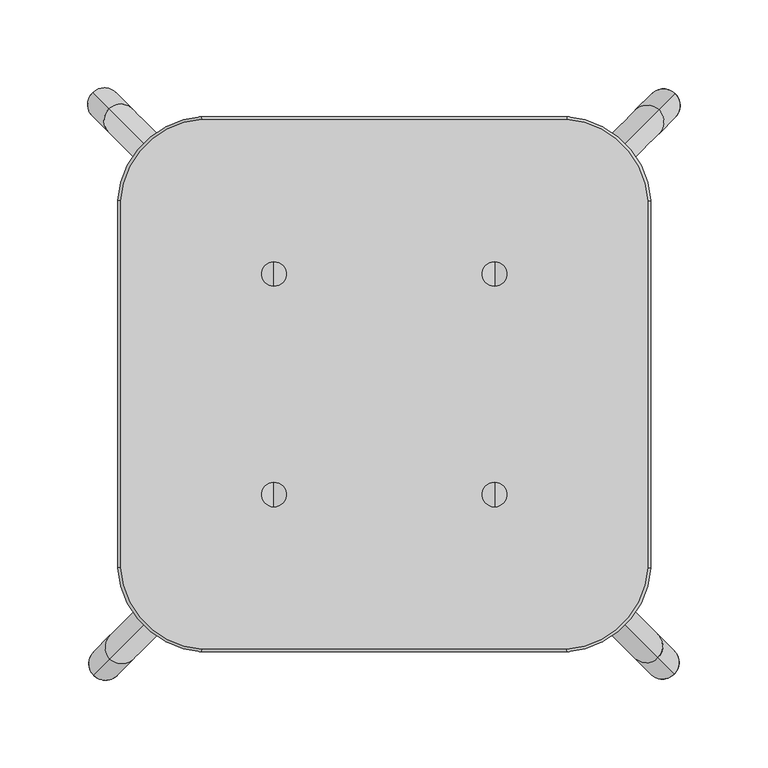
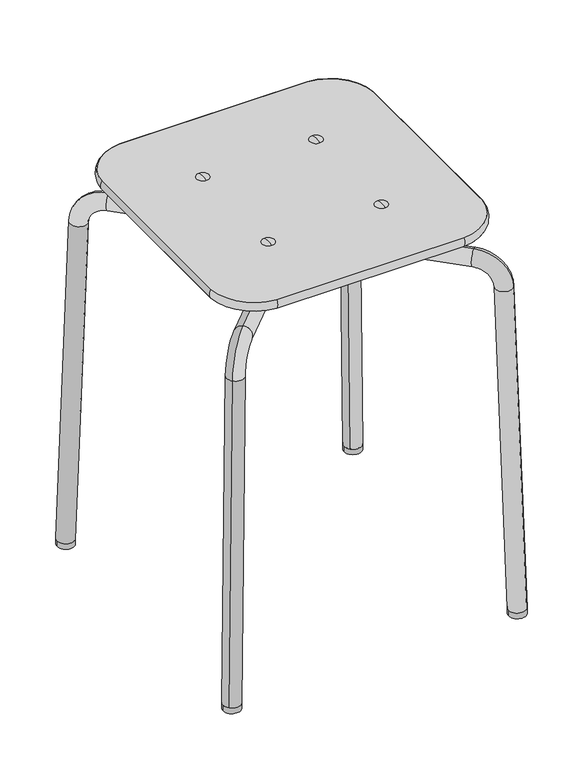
"""IFC4 building model written with IfcOpenShell, lengths in millimetres: furniture geometry, Grip NxT Stool : 45 Unupholstered."""

from ifc_helpers import new_model, si_unit, point, frame, frame_2d, origin, origin_with_axes, place, context, project, spatial, polyline, circle_curve, ellipse_curve, trimmed, segment, composite_curve, outline, extrude, source, transform, mapped, element, save
from ifc_brep_helpers import plane_surface, cylinder_surface, revolved_surface, advanced_brep


def furniture_6e050dcf(model_context):
    return source(origin(), model_context, "Body", "SolidModel", [
        advanced_brep(
        [(165.2549262, -165.2549262, 6.7653221), (151.8280816, -151.8280816, 6.1022316), (155.9976183, -155.9976183, 381.66572), (142.5707737, -142.5707737, 381.0026295), (128.0839151, -128.0839151, 419.7871899), (128.0839151, -128.0839151, 400.7871899), (0.1314281, -0.1314281, 419.7871899), (0.1314281, -0.1314281, 400.7871899), (-129.1039076, 129.1039076, 419.7871899), (-129.1039076, 129.1039076, 400.7871899), (-157.0176108, 157.0176108, 381.66572), (-143.5907662, 143.5907662, 381.0026295), (-166.2737555, 166.2737555, 6.812426), (-152.846911, 152.846911, 6.1493355), (165.895769, 165.6329127, 6.7653221), (152.4689244, 152.2060681, 6.1022316), (156.6384611, 156.3756048, 381.66572), (143.2116165, 142.9487603, 381.0026295), (128.7247579, 128.4619016, 419.7871899), (128.7247579, 128.4619016, 400.7871899), (-128.4630647, -128.725921, 419.7871899), (-128.4630647, -128.725921, 400.7871899), (-156.376768, -156.6396242, 381.66572), (-142.9499234, -143.2127797, 381.0026295), (-165.6329127, -165.895769, 6.812426), (-152.2060681, -152.4689244, 6.1493355)],
        [
            (0, 1, circle_curve(frame((158.5415039, -158.5415039, 6.4337769), z_axis=(0.024677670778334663, -0.02467767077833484, -0.9993908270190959), x_axis=(-0.7066760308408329, 0.7066760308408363, -0.034899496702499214)), 9.5)),
            (1, 0, circle_curve(frame((158.5415039, -158.5415039, 6.4337769), z_axis=(0.024677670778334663, -0.02467767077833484, -0.9993908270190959), x_axis=(-0.7066760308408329, 0.7066760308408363, -0.034899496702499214)), 9.5)),
            (0, 2),
            (2, 3, circle_curve(frame((149.284196, -149.284196, 381.3341748), z_axis=(0.024677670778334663, -0.02467767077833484, -0.9993908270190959), x_axis=(-0.7066760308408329, 0.7066760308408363, -0.034899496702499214)), 9.5)),
            (3, 1),
            (3, 2, circle_curve(frame((149.284196, -149.284196, 381.3341748), z_axis=(0.024677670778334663, -0.02467767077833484, -0.9993908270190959), x_axis=(-0.7066760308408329, 0.7066760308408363, -0.034899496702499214)), 9.5)),
            (2, 4, circle_curve(frame((128.0839151, -128.0839151, 380.2871899), z_axis=(-0.7071067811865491, -0.7071067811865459, 0.0), x_axis=(0.7066760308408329, -0.7066760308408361, 0.03489949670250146)), 39.5)),
            (4, 5, circle_curve(frame((128.0839151, -128.0839151, 410.2871899), z_axis=(0.7071067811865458, -0.7071067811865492, 0.0), x_axis=(0.0, 0.0, -1.0)), 9.5)),
            (5, 3, circle_curve(frame((128.0839151, -128.0839151, 380.2871899), z_axis=(0.7071067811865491, 0.7071067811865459, 0.0), x_axis=(0.7066760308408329, -0.7066760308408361, 0.03489949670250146)), 20.5)),
            (5, 4, circle_curve(frame((128.0839151, -128.0839151, 410.2871899), z_axis=(0.7071067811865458, -0.7071067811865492, 0.0), x_axis=(0.0, 0.0, -1.0)), 9.5)),
            (4, 6),
            (6, 7, ellipse_curve(frame((0.1314281, -0.1314281, 410.2871899), z_axis=(1.0, 0.0, 0.0), x_axis=(0.0, -1.0, 0.0)), 13.4350288, 9.5)),
            (7, 5),
            (8, 9, circle_curve(frame((-129.1039076, 129.1039076, 410.2871899), z_axis=(0.7071067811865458, -0.7071067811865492, 0.0), x_axis=(0.0, 0.0, -1.0)), 9.5)),
            (9, 7),
            (7, 6, ellipse_curve(frame((0.1314281, -0.1314281, 410.2871899), z_axis=(0.0, 1.0, 0.0), x_axis=(1.0, 0.0, 0.0)), 13.4350288, 9.5)),
            (6, 8),
            (7, 6, ellipse_curve(frame((0.1314281, -0.1314281, 410.2871899), z_axis=(0.0, -1.0, 0.0), x_axis=(1.0, 0.0, 0.0)), 13.4350288, 9.5)),
            (9, 8, circle_curve(frame((-129.1039076, 129.1039076, 410.2871899), z_axis=(0.7071067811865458, -0.7071067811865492, 0.0), x_axis=(0.0, 0.0, -1.0)), 9.5)),
            (6, 7, ellipse_curve(frame((0.1314281, -0.1314281, 410.2871899), z_axis=(-1.0, 0.0, 0.0), x_axis=(0.0, -1.0, 0.0)), 13.4350288, 9.5)),
            (8, 10, circle_curve(frame((-129.1039076, 129.1039076, 380.2871899), z_axis=(-0.7071067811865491, -0.7071067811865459, 0.0), x_axis=(0.0, 0.0, 1.0)), 39.5)),
            (10, 11, circle_curve(frame((-150.3041885, 150.3041885, 381.3341748), z_axis=(0.024677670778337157, -0.02467767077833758, 0.9993908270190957), x_axis=(0.7066760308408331, -0.7066760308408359, -0.03489949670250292)), 9.5)),
            (11, 9, circle_curve(frame((-129.1039076, 129.1039076, 380.2871899), z_axis=(0.7071067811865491, 0.7071067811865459, 0.0), x_axis=(0.0, 0.0, 1.0)), 20.5)),
            (11, 10, circle_curve(frame((-150.3041885, 150.3041885, 381.3341748), z_axis=(0.02467767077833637, -0.024677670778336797, 0.9993908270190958), x_axis=(0.7066760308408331, -0.7066760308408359, -0.03489949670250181)), 9.5)),
            (12, 13, circle_curve(frame((-159.5603333, 159.5603333, 6.4808807), z_axis=(-0.024677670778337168, 0.02467767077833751, -0.9993908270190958), x_axis=(0.7066760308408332, -0.7066760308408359, -0.03489949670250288)), 9.5)),
            (13, 12, circle_curve(frame((-159.5603333, 159.5603333, 6.4808807), z_axis=(-0.024677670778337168, 0.02467767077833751, -0.9993908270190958), x_axis=(0.7066760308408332, -0.7066760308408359, -0.03489949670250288)), 9.5)),
            (10, 12),
            (13, 11),
            (14, 15, circle_curve(frame((159.1823467, 158.9194904, 6.4337769), z_axis=(0.024677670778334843, 0.024677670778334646, -0.9993908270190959), x_axis=(-0.706676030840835, -0.7066760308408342, -0.03489949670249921)), 9.5)),
            (15, 14, circle_curve(frame((159.1823467, 158.9194904, 6.4337769), z_axis=(0.024677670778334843, 0.024677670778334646, -0.9993908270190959), x_axis=(-0.706676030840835, -0.7066760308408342, -0.03489949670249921)), 9.5)),
            (14, 16),
            (16, 17, circle_curve(frame((149.9250388, 149.6621825, 381.3341748), z_axis=(0.024677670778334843, 0.024677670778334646, -0.9993908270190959), x_axis=(-0.706676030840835, -0.7066760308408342, -0.03489949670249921)), 9.5)),
            (17, 15),
            (17, 16, circle_curve(frame((149.9250388, 149.6621825, 381.3341748), z_axis=(0.024677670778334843, 0.024677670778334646, -0.9993908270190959), x_axis=(-0.706676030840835, -0.7066760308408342, -0.03489949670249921)), 9.5)),
            (16, 18, circle_curve(frame((128.7247579, 128.4619016, 380.2871899), z_axis=(0.707106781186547, -0.707106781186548, 0.0), x_axis=(0.706676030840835, 0.706676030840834, 0.03489949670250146)), 39.5)),
            (18, 19, circle_curve(frame((128.7247579, 128.4619016, 410.2871899), z_axis=(0.7071067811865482, 0.707106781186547, 0.0), x_axis=(0.0, 0.0, -1.0)), 9.5)),
            (19, 17, circle_curve(frame((128.7247579, 128.4619016, 380.2871899), z_axis=(-0.707106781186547, 0.707106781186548, 0.0), x_axis=(0.706676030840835, 0.706676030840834, 0.03489949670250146)), 20.5)),
            (19, 18, circle_curve(frame((128.7247579, 128.4619016, 410.2871899), z_axis=(0.7071067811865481, 0.7071067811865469, 0.0), x_axis=(0.0, 0.0, -1.0)), 9.5)),
            (18, 6),
            (7, 19),
            (20, 21, circle_curve(frame((-128.4630647, -128.725921, 410.2871899), z_axis=(0.7071067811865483, 0.7071067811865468, 0.0), x_axis=(0.0, 0.0, -1.0)), 9.5)),
            (21, 7),
            (6, 20),
            (21, 20, circle_curve(frame((-128.4630647, -128.725921, 410.2871899), z_axis=(0.7071067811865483, 0.7071067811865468, 0.0), x_axis=(0.0, 0.0, -1.0)), 9.5)),
            (20, 22, circle_curve(frame((-128.4630647, -128.725921, 380.2871899), z_axis=(0.707106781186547, -0.707106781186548, 0.0), x_axis=(0.0, 0.0, 1.0)), 39.5)),
            (22, 23, circle_curve(frame((-149.6633457, -149.9262019, 381.3341748), z_axis=(0.02467767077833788, 0.02467767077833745, 0.9993908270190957), x_axis=(0.7066760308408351, 0.7066760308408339, -0.03489949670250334)), 9.5)),
            (23, 21, circle_curve(frame((-128.4630647, -128.725921, 380.2871899), z_axis=(-0.707106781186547, 0.707106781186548, 0.0), x_axis=(0.0, 0.0, 1.0)), 20.5)),
            (23, 22, circle_curve(frame((-149.6633457, -149.9262019, 381.3341748), z_axis=(0.024677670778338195, 0.024677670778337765, 0.9993908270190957), x_axis=(0.7066760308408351, 0.7066760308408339, -0.034899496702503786)), 9.5)),
            (24, 25, circle_curve(frame((-158.9194904, -159.1823467, 6.4808807), z_axis=(-0.02467767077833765, -0.024677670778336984, -0.9993908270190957), x_axis=(0.7066760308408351, 0.7066760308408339, -0.03489949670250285)), 9.5)),
            (25, 24, circle_curve(frame((-158.9194904, -159.1823467, 6.4808807), z_axis=(-0.02467767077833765, -0.024677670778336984, -0.9993908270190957), x_axis=(0.7066760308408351, 0.7066760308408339, -0.03489949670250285)), 9.5)),
            (22, 24),
            (25, 23),
        ],
        [
            plane_surface(frame((158.5415039, -158.5415039, 6.4337769), z_axis=(0.024677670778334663, -0.02467767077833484, -0.9993908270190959), x_axis=(-0.707106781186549, -0.7071067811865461, 0.0))),
            cylinder_surface(frame((158.5415039, -158.5415039, 6.4337769), z_axis=(0.024677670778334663, -0.02467767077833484, -0.9993908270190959), x_axis=(-0.7066760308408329, 0.7066760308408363, -0.034899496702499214)), 9.5),
            revolved_surface(trimmed(ellipse_curve(frame((149.284196, -149.284196, 381.3341748), z_axis=(0.024677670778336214, -0.024677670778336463, -0.9993908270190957), x_axis=(-0.7066760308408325, 0.7066760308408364, -0.03489949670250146)), 9.5, 9.5), [point((155.9976183, -155.9976183, 381.66572))], [point((142.5707737, -142.5707737, 381.0026295))], True, "CARTESIAN"), (128.0839151, -128.0839151, 380.2871899), (-0.7071067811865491, -0.7071067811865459, 0.0)),
            revolved_surface(trimmed(ellipse_curve(frame((149.284196, -149.284196, 381.3341748), z_axis=(0.024677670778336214, -0.024677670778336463, -0.9993908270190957), x_axis=(-0.7066760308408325, 0.7066760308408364, -0.03489949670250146)), 9.5, 9.5), [point((142.5707737, -142.5707737, 381.0026295))], [point((155.9976183, -155.9976183, 381.66572))], True, "CARTESIAN"), (128.0839151, -128.0839151, 380.2871899), (-0.7071067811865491, -0.7071067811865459, 0.0)),
            cylinder_surface(frame((128.0839151, -128.0839151, 410.2871899), z_axis=(0.7071067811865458, -0.7071067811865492, 0.0), x_axis=(0.0, 0.0, -1.0)), 9.5),
            revolved_surface(trimmed(ellipse_curve(frame((-129.1039076, 129.1039076, 410.2871899), z_axis=(0.7071067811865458, -0.7071067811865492, 0.0), x_axis=(0.0, 0.0, -1.0)), 9.5, 9.5), [point((-129.1039076, 129.1039076, 419.7871899))], [point((-129.1039076, 129.1039076, 400.7871899))], True, "CARTESIAN"), (-129.1039076, 129.1039076, 380.2871899), (-0.7071067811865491, -0.7071067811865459, 0.0)),
            revolved_surface(trimmed(ellipse_curve(frame((-129.1039076, 129.1039076, 410.2871899), z_axis=(0.7071067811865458, -0.7071067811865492, 0.0), x_axis=(0.0, 0.0, -1.0)), 9.5, 9.5), [point((-129.1039076, 129.1039076, 400.7871899))], [point((-129.1039076, 129.1039076, 419.7871899))], True, "CARTESIAN"), (-129.1039076, 129.1039076, 380.2871899), (-0.7071067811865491, -0.7071067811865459, 0.0)),
            plane_surface(frame((-159.5603333, 159.5603333, 6.4808807), z_axis=(-0.024677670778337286, 0.0246776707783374, -0.9993908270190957), x_axis=(-0.7071067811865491, -0.7071067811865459, 0.0))),
            cylinder_surface(frame((-150.3041885, 150.3041885, 381.3341748), z_axis=(0.024677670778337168, -0.02467767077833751, 0.9993908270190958), x_axis=(0.7066760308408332, -0.7066760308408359, -0.03489949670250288)), 9.5),
            plane_surface(frame((159.1823467, 158.9194904, 6.4337769), z_axis=(0.024677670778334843, 0.024677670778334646, -0.9993908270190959), x_axis=(0.707106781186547, -0.7071067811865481, 0.0))),
            cylinder_surface(frame((159.1823467, 158.9194904, 6.4337769), z_axis=(0.024677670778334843, 0.024677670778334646, -0.9993908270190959), x_axis=(-0.706676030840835, -0.7066760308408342, -0.03489949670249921)), 9.5),
            revolved_surface(trimmed(ellipse_curve(frame((149.9250388, 149.6621825, 381.3341748), z_axis=(0.024677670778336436, 0.024677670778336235, -0.9993908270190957), x_axis=(-0.7066760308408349, -0.7066760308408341, -0.034899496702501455)), 9.5, 9.5), [point((156.6384611, 156.3756048, 381.66572))], [point((143.2116165, 142.9487603, 381.0026295))], True, "CARTESIAN"), (128.7247579, 128.4619016, 380.2871899), (0.707106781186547, -0.707106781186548, 0.0)),
            revolved_surface(trimmed(ellipse_curve(frame((149.9250388, 149.6621825, 381.3341748), z_axis=(0.024677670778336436, 0.024677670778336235, -0.9993908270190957), x_axis=(-0.7066760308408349, -0.7066760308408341, -0.034899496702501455)), 9.5, 9.5), [point((143.2116165, 142.9487603, 381.0026295))], [point((156.6384611, 156.3756048, 381.66572))], True, "CARTESIAN"), (128.7247579, 128.4619016, 380.2871899), (0.707106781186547, -0.707106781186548, 0.0)),
            cylinder_surface(frame((128.7247579, 128.4619016, 410.2871899), z_axis=(0.7071067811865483, 0.7071067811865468, 0.0), x_axis=(0.0, 0.0, -1.0)), 9.5),
            revolved_surface(trimmed(ellipse_curve(frame((-128.4630647, -128.725921, 410.2871899), z_axis=(0.7071067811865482, 0.7071067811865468, 0.0), x_axis=(0.0, 0.0, -1.0)), 9.5, 9.5), [point((-128.4630647, -128.725921, 419.7871899))], [point((-128.4630647, -128.725921, 400.7871899))], True, "CARTESIAN"), (-128.4630647, -128.725921, 380.2871899), (0.707106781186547, -0.707106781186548, 0.0)),
            revolved_surface(trimmed(ellipse_curve(frame((-128.4630647, -128.725921, 410.2871899), z_axis=(0.7071067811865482, 0.7071067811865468, 0.0), x_axis=(0.0, 0.0, -1.0)), 9.5, 9.5), [point((-128.4630647, -128.725921, 400.7871899))], [point((-128.4630647, -128.725921, 419.7871899))], True, "CARTESIAN"), (-128.4630647, -128.725921, 380.2871899), (0.707106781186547, -0.707106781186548, 0.0)),
            plane_surface(frame((-158.9194904, -159.1823467, 6.4808807), z_axis=(-0.024677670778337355, -0.024677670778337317, -0.9993908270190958), x_axis=(0.707106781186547, -0.7071067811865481, 0.0))),
            cylinder_surface(frame((-149.6633457, -149.9262019, 381.3341748), z_axis=(0.024677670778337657, 0.02467767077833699, 0.9993908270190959), x_axis=(0.7066760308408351, 0.7066760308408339, -0.03489949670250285)), 9.5),
        ],
        [
            (0, [[1, 2]]),
            (1, [[-1, 3, 4, 5]]),
            (1, [[-2, -5, 6, -3]]),
            (2, [[-4, 7, 8, 9]]),
            (3, [[-6, -9, 10, -7]]),
            (4, [[-8, 11, 12, 13]]),
            (4, [[14, 15, 16, 17]]),
            (4, [[-10, -13, 18, -11]]),
            (4, [[19, -17, 20, -15]]),
            (5, [[-14, 21, 22, 23]]),
            (6, [[-19, -23, 24, -21]]),
            (7, [[25, 26]]),
            (8, [[-22, 27, -26, 28]]),
            (8, [[-24, -28, -25, -27]]),
            (9, [[29, 30]]),
            (10, [[-29, 31, 32, 33]]),
            (10, [[-30, -33, 34, -31]]),
            (11, [[-32, 35, 36, 37]]),
            (12, [[-34, -37, 38, -35]]),
            (13, [[-36, 39, -18, 40]]),
            (13, [[41, 42, -12, 43]]),
            (13, [[-38, -40, -20, -39]]),
            (13, [[44, -43, -16, -42]]),
            (14, [[-41, 45, 46, 47]]),
            (15, [[-44, -47, 48, -45]]),
            (16, [[49, 50]]),
            (17, [[-46, 51, -50, 52]]),
            (17, [[-48, -52, -49, -51]]),
        ],
    ),
        extrude(outline(composite_curve([segment(trimmed(circle_curve(frame_2d((-62.8430475, -62.9984816)), 9.0), [point((-71.8430475, -62.9984816))], [point((-53.8430475, -62.9984816))], False, "CARTESIAN"), True, "CONTINUOUS"), segment(trimmed(circle_curve(frame_2d((-62.8430475, -62.9984816)), 9.0), [point((-53.8430475, -62.9984816))], [point((-71.8430475, -62.9984816))], False, "CARTESIAN"), True, "CONTINUOUS")], self_intersect=False)), frame((0.0, 0.0, 388.5318909), z_axis=(0.0, 0.0, 1.0), x_axis=(1.0, 0.0, 0.0)), (0.0, 0.0, 1.0), 56.7956238),
        extrude(outline(composite_curve([segment(trimmed(circle_curve(frame_2d((-62.9013824, 62.8818117)), 9.0), [point((-71.9013824, 62.8818117))], [point((-53.9013824, 62.8818117))], False, "CARTESIAN"), True, "CONTINUOUS"), segment(trimmed(circle_curve(frame_2d((-62.9013824, 62.8818117)), 9.0), [point((-53.9013824, 62.8818117))], [point((-71.9013824, 62.8818117))], False, "CARTESIAN"), True, "CONTINUOUS")], self_intersect=False)), frame((0.0, 0.0, 388.5318909), z_axis=(0.0, 0.0, 1.0), x_axis=(1.0, 0.0, 0.0)), (0.0, 0.0, 1.0), 56.7956238),
        extrude(outline(composite_curve([segment(trimmed(circle_curve(frame_2d((63.0190462, 62.6464842)), 9.0), [point((72.0190462, 62.6464842))], [point((54.0190462, 62.6464842))], False, "CARTESIAN"), True, "CONTINUOUS"), segment(trimmed(circle_curve(frame_2d((63.0190462, 62.6464842)), 9.0), [point((54.0190462, 62.6464842))], [point((72.0190462, 62.6464842))], False, "CARTESIAN"), True, "CONTINUOUS")], self_intersect=False)), frame((0.0, 0.0, 388.5318909), z_axis=(0.0, 0.0, 1.0), x_axis=(1.0, 0.0, 0.0)), (0.0, 0.0, 1.0), 56.7956238),
        extrude(outline(composite_curve([segment(trimmed(circle_curve(frame_2d((62.8430475, -62.9984816)), 9.0), [point((71.8430475, -62.9984816))], [point((53.8430475, -62.9984816))], False, "CARTESIAN"), True, "CONTINUOUS"), segment(trimmed(circle_curve(frame_2d((62.8430475, -62.9984816)), 9.0), [point((53.8430475, -62.9984816))], [point((71.8430475, -62.9984816))], False, "CARTESIAN"), True, "CONTINUOUS")], self_intersect=False)), frame((0.0, 0.0, 388.5318909), z_axis=(0.0, 0.0, 1.0), x_axis=(1.0, 0.0, 0.0)), (0.0, 0.0, 1.0), 56.7956238),
        extrude(outline(composite_curve([segment(trimmed(circle_curve(frame_2d((-158.9072278, -159.1772871)), 9.5), [point((-168.4072278, -159.1772871))], [point((-149.4072278, -159.1772871))], False, "CARTESIAN"), True, "CONTINUOUS"), segment(trimmed(circle_curve(frame_2d((-158.9072278, -159.1772871)), 9.5), [point((-149.4072278, -159.1772871))], [point((-168.4072278, -159.1772871))], False, "CARTESIAN"), True, "CONTINUOUS")], self_intersect=False)), origin_with_axes(), (0.0, 0.0, 1.0), 7.0),
        extrude(outline(composite_curve([segment(trimmed(circle_curve(frame_2d((-159.4918114, 159.500871)), 9.5), [point((-168.9918114, 159.500871))], [point((-149.9918114, 159.500871))], False, "CARTESIAN"), True, "CONTINUOUS"), segment(trimmed(circle_curve(frame_2d((-159.4918114, 159.500871)), 9.5), [point((-149.9918114, 159.500871))], [point((-168.9918114, 159.500871))], False, "CARTESIAN"), True, "CONTINUOUS")], self_intersect=False)), origin_with_axes(), (0.0, 0.0, 1.0), 7.0),
        extrude(outline(composite_curve([segment(trimmed(circle_curve(frame_2d((159.1861771, 158.971276)), 9.5325021), [point((149.653675, 158.971276))], [point((168.7186793, 158.971276))], False, "CARTESIAN"), True, "CONTINUOUS"), segment(trimmed(circle_curve(frame_2d((159.1861771, 158.971276)), 9.5325021), [point((168.7186793, 158.971276))], [point((149.653675, 158.971276))], False, "CARTESIAN"), True, "CONTINUOUS")], self_intersect=False)), origin_with_axes(), (0.0, 0.0, 1.0), 7.0),
        extrude(outline(composite_curve([segment(trimmed(circle_curve(frame_2d((158.5471745, -158.5595901)), 9.5), [point((149.0471745, -158.5595901))], [point((168.0471745, -158.5595901))], False, "CARTESIAN"), True, "CONTINUOUS"), segment(trimmed(circle_curve(frame_2d((158.5471745, -158.5595901)), 9.5), [point((168.0471745, -158.5595901))], [point((149.0471745, -158.5595901))], False, "CARTESIAN"), True, "CONTINUOUS")], self_intersect=False)), origin_with_axes(), (0.0, 0.0, 1.0), 7.0),
        advanced_brep(
        [(62.864624, 55.9496384, 455.3895874), (62.864624, 69.8431778, 455.3895874), (62.864624, 62.8964081, 455.3895874), (62.864624, 62.8964081, 456.5699158)],
        [
            (0, 1, circle_curve(frame((62.864624, 62.8964081, 455.3895874), z_axis=(0.0, 0.0, -1.0), x_axis=(0.0, 1.0, 0.0)), 6.9467697)),
            (1, 2),
            (2, 0),
            (1, 0, circle_curve(frame((62.864624, 62.8964081, 455.3895874), z_axis=(0.0, 0.0, -1.0), x_axis=(0.0, 1.0, 0.0)), 6.9467697)),
            (3, 1, circle_curve(frame((62.864624, 63.1234591, 436.8735995), z_axis=(-1.0, 0.0, 0.0), x_axis=(0.0, 1.0, 0.0)), 19.6976249)),
            (0, 3, circle_curve(frame((62.864624, 62.669357, 436.8735995), z_axis=(-1.0, 0.0, 0.0), x_axis=(0.0, -1.0, 0.0)), 19.6976249)),
        ],
        [
            plane_surface(frame((62.864624, 62.8964081, 455.3895874), z_axis=(0.0, 0.0, -1.0), x_axis=(0.0, 1.0, 0.0))),
            revolved_surface(trimmed(ellipse_curve(frame((62.864624, 63.1234591, 436.8735995), z_axis=(1.0, 0.0, 0.0), x_axis=(0.0, 1.0, 0.0)), 19.6976249, 19.6976249), [point((62.864624, 69.8431778, 455.3895874))], [point((62.864624, 62.8964081, 456.5699158))], True, "CARTESIAN"), (62.864624, 62.8964081, 456.2266692), (0.0, 0.0, 1.0)),
        ],
        [
            (0, [[1, 2, 3]]),
            (0, [[4, -3, -2]]),
            (1, [[5, -1, 6]]),
            (1, [[-6, -4, -5]]),
        ],
    ),
        advanced_brep(
        [(62.864624, -62.8964081, 455.3895874), (62.864624, -69.8431778, 455.3895874), (62.864624, -55.9496384, 455.3895874), (62.864624, -62.8964081, 456.5699158)],
        [
            (0, 1),
            (1, 2, circle_curve(frame((62.864624, -62.8964081, 455.3895874), z_axis=(0.0, 0.0, -1.0), x_axis=(0.0, -1.0, 0.0)), 6.9467697)),
            (2, 0),
            (2, 1, circle_curve(frame((62.864624, -62.8964081, 455.3895874), z_axis=(0.0, 0.0, -1.0), x_axis=(0.0, -1.0, 0.0)), 6.9467697)),
            (1, 3, circle_curve(frame((62.864624, -63.1234591, 436.8735995), z_axis=(-1.0, 0.0, 0.0), x_axis=(0.0, -1.0, 0.0)), 19.6976249)),
            (3, 2, circle_curve(frame((62.864624, -62.669357, 436.8735995), z_axis=(-1.0, 0.0, 0.0), x_axis=(0.0, 1.0, 0.0)), 19.6976249)),
        ],
        [
            plane_surface(frame((62.864624, -62.8964081, 455.3895874), z_axis=(0.0, 0.0, -1.0), x_axis=(0.0, -1.0, 0.0))),
            revolved_surface(trimmed(ellipse_curve(frame((62.864624, -63.1234591, 436.8735995), z_axis=(1.0, 0.0, 0.0), x_axis=(0.0, -1.0, 0.0)), 19.6976249, 19.6976249), [point((62.864624, -62.8964081, 456.5699158))], [point((62.864624, -69.8431778, 455.3895874))], True, "CARTESIAN"), (62.864624, -62.8964081, 456.2266692), (0.0, 0.0, -1.0)),
        ],
        [
            (0, [[1, 2, 3]]),
            (0, [[-3, 4, -1]]),
            (1, [[-2, 5, 6]]),
            (1, [[-4, -6, -5]]),
        ],
    ),
        advanced_brep(
        [(-62.864624, 62.8964081, 455.3895874), (-62.864624, 69.8431778, 455.3895874), (-62.864624, 55.9496384, 455.3895874), (-62.864624, 62.8964081, 456.5699158)],
        [
            (0, 1),
            (1, 2, circle_curve(frame((-62.864624, 62.8964081, 455.3895874), z_axis=(0.0, 0.0, -1.0), x_axis=(0.0, 1.0, 0.0)), 6.9467697)),
            (2, 0),
            (2, 1, circle_curve(frame((-62.864624, 62.8964081, 455.3895874), z_axis=(0.0, 0.0, -1.0), x_axis=(0.0, 1.0, 0.0)), 6.9467697)),
            (1, 3, circle_curve(frame((-62.864624, 63.1234591, 436.8735995), z_axis=(1.0, 0.0, 0.0), x_axis=(0.0, 1.0, 0.0)), 19.6976249)),
            (3, 2, circle_curve(frame((-62.864624, 62.669357, 436.8735995), z_axis=(1.0, 0.0, 0.0), x_axis=(0.0, -1.0, 0.0)), 19.6976249)),
        ],
        [
            plane_surface(frame((-62.864624, 62.8964081, 455.3895874), z_axis=(0.0, 0.0, -1.0), x_axis=(0.0, 1.0, 0.0))),
            revolved_surface(trimmed(ellipse_curve(frame((-62.864624, 63.1234591, 436.8735995), z_axis=(-1.0, 0.0, 0.0), x_axis=(0.0, 1.0, 0.0)), 19.6976249, 19.6976249), [point((-62.864624, 62.8964081, 456.5699158))], [point((-62.864624, 69.8431778, 455.3895874))], True, "CARTESIAN"), (-62.864624, 62.8964081, 456.2266692), (0.0, 0.0, -1.0)),
        ],
        [
            (0, [[1, 2, 3]]),
            (0, [[-3, 4, -1]]),
            (1, [[-2, 5, 6]]),
            (1, [[-4, -6, -5]]),
        ],
    ),
        advanced_brep(
        [(-62.864624, -55.9496384, 455.3895874), (-62.864624, -69.8431778, 455.3895874), (-62.864624, -62.8964081, 455.3895874), (-62.864624, -62.8964081, 456.5699158)],
        [
            (0, 1, circle_curve(frame((-62.864624, -62.8964081, 455.3895874), z_axis=(0.0, 0.0, -1.0), x_axis=(0.0, -1.0, 0.0)), 6.9467697)),
            (1, 2),
            (2, 0),
            (1, 0, circle_curve(frame((-62.864624, -62.8964081, 455.3895874), z_axis=(0.0, 0.0, -1.0), x_axis=(0.0, -1.0, 0.0)), 6.9467697)),
            (3, 1, circle_curve(frame((-62.864624, -63.1234591, 436.8735995), z_axis=(1.0, 0.0, 0.0), x_axis=(0.0, -1.0, 0.0)), 19.6976249)),
            (0, 3, circle_curve(frame((-62.864624, -62.669357, 436.8735995), z_axis=(1.0, 0.0, 0.0), x_axis=(0.0, 1.0, 0.0)), 19.6976249)),
        ],
        [
            plane_surface(frame((-62.864624, -62.8964081, 455.3895874), z_axis=(0.0, 0.0, -1.0), x_axis=(0.0, -1.0, 0.0))),
            revolved_surface(trimmed(ellipse_curve(frame((-62.864624, -63.1234591, 436.8735995), z_axis=(-1.0, 0.0, 0.0), x_axis=(0.0, -1.0, 0.0)), 19.6976249, 19.6976249), [point((-62.864624, -69.8431778, 455.3895874))], [point((-62.864624, -62.8964081, 456.5699158))], True, "CARTESIAN"), (-62.864624, -62.8964081, 456.2266692), (0.0, 0.0, 1.0)),
        ],
        [
            (0, [[1, 2, 3]]),
            (0, [[4, -3, -2]]),
            (1, [[5, -1, 6]]),
            (1, [[-6, -4, -5]]),
        ],
    ),
        advanced_brep(
        [(-150.5346627, -104.6444052, 455.4041136), (-104.127396, -151.0356405, 455.4041136), (-104.127396, -151.0356405, 445.4041138), (-150.5346627, -104.6444052, 445.4041138), (-150.5346627, 104.6444052, 455.4041136), (-150.5346627, 104.6444052, 445.4041138), (-104.127396, 151.0356405, 455.4041136), (-104.127396, 151.0356405, 445.4041138), (104.127396, 151.0356405, 455.4041136), (104.127396, 151.0356405, 445.4041138), (150.5346627, 104.6444052, 455.4041136), (150.5346627, 104.6444052, 445.4041138), (150.5346627, -104.6444052, 455.4041136), (150.5346627, -104.6444052, 445.4041138), (104.127396, -151.0356405, 455.4041136), (104.127396, -151.0356405, 445.4041138)],
        [
            (0, 1, circle_curve(frame((-100.6564828, -101.1562584, 455.4041136), z_axis=(0.0, 0.0, 1.0), x_axis=(-0.06941826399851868, -0.9975876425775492, 0.0)), 50.0)),
            (1, 2),
            (2, 3, circle_curve(frame((-100.6564828, -101.1562584, 445.4041138), z_axis=(0.0, 0.0, -1.0), x_axis=(-0.06941826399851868, -0.9975876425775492, 0.0)), 50.0)),
            (3, 0),
            (4, 0, circle_curve(frame((1345.8107347, 0.0, 455.4041136), z_axis=(0.0, 0.0, 1.0), x_axis=(-0.9975635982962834, -0.06976293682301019, 0.0)), 1500.0)),
            (3, 5, circle_curve(frame((1345.8107347, 0.0, 445.4041138), z_axis=(0.0, 0.0, -1.0), x_axis=(-0.9975635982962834, -0.06976293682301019, 0.0)), 1500.0)),
            (5, 4),
            (6, 4, circle_curve(frame((-100.6564828, 101.1562584, 455.4041136), z_axis=(0.0, 0.0, 1.0), x_axis=(-0.9975635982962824, 0.0697629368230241, 0.0)), 50.0)),
            (5, 7, circle_curve(frame((-100.6564828, 101.1562584, 445.4041138), z_axis=(0.0, 0.0, -1.0), x_axis=(-0.9975635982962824, 0.0697629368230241, 0.0)), 50.0)),
            (7, 6),
            (8, 6, circle_curve(frame((0.0, -1345.3458233, 455.4041136), z_axis=(0.0, 0.0, 1.0), x_axis=(-0.06941826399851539, 0.9975876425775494, 0.0)), 1500.0)),
            (7, 9, circle_curve(frame((0.0, -1345.3458233, 445.4041138), z_axis=(0.0, 0.0, -1.0), x_axis=(-0.06941826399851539, 0.9975876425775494, 0.0)), 1500.0)),
            (9, 8),
            (10, 8, circle_curve(frame((100.6564828, 101.1562584, 455.4041136), z_axis=(0.0, 0.0, 1.0), x_axis=(0.06941826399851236, 0.9975876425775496, 0.0)), 50.0)),
            (9, 11, circle_curve(frame((100.6564828, 101.1562584, 445.4041138), z_axis=(0.0, 0.0, -1.0), x_axis=(0.06941826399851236, 0.9975876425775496, 0.0)), 50.0)),
            (11, 10),
            (12, 10, circle_curve(frame((-1345.8107347, 0.0, 455.4041136), z_axis=(0.0, 0.0, 1.0), x_axis=(0.9975635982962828, 0.06976293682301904, 0.0)), 1500.0)),
            (11, 13, circle_curve(frame((-1345.8107347, 0.0, 445.4041138), z_axis=(0.0, 0.0, -1.0), x_axis=(0.9975635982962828, 0.06976293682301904, 0.0)), 1500.0)),
            (13, 12),
            (14, 12, circle_curve(frame((100.6564828, -101.1562584, 455.4041136), z_axis=(0.0, 0.0, 1.0), x_axis=(0.9975635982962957, -0.0697629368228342, 0.0)), 50.0)),
            (13, 15, circle_curve(frame((100.6564828, -101.1562584, 445.4041138), z_axis=(0.0, 0.0, -1.0), x_axis=(0.9975635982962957, -0.0697629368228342, 0.0)), 50.0)),
            (15, 14),
            (1, 14, circle_curve(frame((0.0, 1345.3458233, 455.4041136), z_axis=(0.0, 0.0, 1.0), x_axis=(0.0694182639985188, -0.9975876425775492, 0.0)), 1500.0)),
            (15, 2, circle_curve(frame((0.0, 1345.3458233, 445.4041138), z_axis=(0.0, 0.0, -1.0), x_axis=(0.0694182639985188, -0.9975876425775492, 0.0)), 1500.0)),
            (2, 1, circle_curve(frame((-103.6079173, -143.5703781, 450.4041137), z_axis=(-0.9975876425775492, 0.06941826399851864, 0.0), x_axis=(-0.06941826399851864, -0.9975876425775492, 0.0)), 9.0)),
            (0, 3, circle_curve(frame((-143.0695802, -104.1223472, 450.4041137), z_axis=(0.06976293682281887, -0.9975635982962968, 0.0), x_axis=(-0.9975635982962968, -0.06976293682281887, 0.0)), 9.0)),
            (4, 5, circle_curve(frame((-143.0695802, 104.1223472, 450.4041137), z_axis=(-0.06976293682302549, -0.9975635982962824, 0.0), x_axis=(-0.9975635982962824, 0.06976293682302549, 0.0)), 9.0)),
            (6, 7, circle_curve(frame((-103.6079173, 143.5703781, 450.4041137), z_axis=(-0.9975876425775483, -0.06941826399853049, 0.0), x_axis=(-0.06941826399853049, 0.9975876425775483, 0.0)), 9.0)),
            (8, 9, circle_curve(frame((103.6079173, 143.5703781, 450.4041137), z_axis=(-0.9975876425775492, 0.06941826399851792, 0.0), x_axis=(0.06941826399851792, 0.9975876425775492, 0.0)), 9.0)),
            (10, 11, circle_curve(frame((143.0695802, 104.1223472, 450.4041137), z_axis=(-0.06976293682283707, 0.9975635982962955, 0.0), x_axis=(0.9975635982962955, 0.06976293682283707, 0.0)), 9.0)),
            (12, 13, circle_curve(frame((143.0695802, -104.1223472, 450.4041137), z_axis=(0.06976293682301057, 0.9975635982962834, 0.0), x_axis=(0.9975635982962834, -0.06976293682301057, 0.0)), 9.0)),
            (14, 15, circle_curve(frame((103.6079173, -143.5703781, 450.4041137), z_axis=(0.997587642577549, 0.06941826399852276, 0.0), x_axis=(0.06941826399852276, -0.997587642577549, 0.0)), 9.0)),
        ],
        [
            revolved_surface(polyline([(-104.12739599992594, -151.03564052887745, 445.4041138), (-104.12739599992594, -151.03564052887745, 455.4041136)]), (-100.6564828, -101.1562584, 455.4041136), (0.0, 0.0, -1.0)),
            revolved_surface(polyline([(-150.53466274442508, -104.64440523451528, 445.4041138), (-150.53466274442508, -104.64440523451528, 455.4041136)]), (1345.8107347, 0.0, 455.4041136), (0.0, 0.0, -1.0)),
            revolved_surface(polyline([(-150.53466271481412, 104.6444052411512, 445.4041138), (-150.53466271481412, 104.6444052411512, 455.4041136)]), (-100.6564828, 101.1562584, 455.4041136), (0.0, 0.0, -1.0)),
            revolved_surface(polyline([(-104.12739599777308, 151.03564056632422, 445.4041138), (-104.12739599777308, 151.03564056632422, 455.4041136)]), (0.0, -1345.3458233, 455.4041136), (0.0, 0.0, -1.0)),
            revolved_surface(polyline([(104.12739599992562, 151.03564052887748, 445.4041138), (104.12739599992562, 151.03564052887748, 455.4041136)]), (100.6564828, 101.1562584, 455.4041136), (0.0, 0.0, -1.0)),
            revolved_surface(polyline([(150.53466274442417, 104.64440523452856, 445.4041138), (150.53466274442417, 104.64440523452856, 455.4041136)]), (-1345.8107347, 0.0, 455.4041136), (0.0, 0.0, -1.0)),
            revolved_surface(polyline([(150.5346627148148, -104.64440524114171, 445.4041138), (150.5346627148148, -104.64440524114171, 455.4041136)]), (100.6564828, -101.1562584, 455.4041136), (0.0, 0.0, -1.0)),
            revolved_surface(polyline([(104.12739599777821, -151.03564056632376, 445.4041138), (104.12739599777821, -151.03564056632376, 455.4041136)]), (0.0, 1345.3458233, 455.4041136), (0.0, 0.0, -1.0)),
            revolved_surface(trimmed(ellipse_curve(frame((-103.6079173, -143.5703781, 450.4041137), z_axis=(0.9975876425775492, -0.06941826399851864, 0.0), x_axis=(-0.06941826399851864, -0.9975876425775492, 0.0)), 9.0, 9.0), [point((-104.127396, -151.0356405, 455.4041136))], [point((-104.127396, -151.0356405, 445.4041138))], True, "CARTESIAN"), (-100.6564828, -101.1562584, 455.4041136), (0.0, 0.0, -1.0)),
            revolved_surface(trimmed(ellipse_curve(frame((-143.0695802, -104.1223472, 450.4041137), z_axis=(0.06976293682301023, -0.9975635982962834, 0.0), x_axis=(-0.9975635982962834, -0.06976293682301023, 0.0)), 9.0, 9.0), [point((-150.5346627, -104.6444052, 455.4041136))], [point((-150.5346627, -104.6444052, 445.4041138))], True, "CARTESIAN"), (1345.8107347, 0.0, 455.4041136), (0.0, 0.0, -1.0)),
            revolved_surface(trimmed(ellipse_curve(frame((-143.0695802, 104.1223472, 450.4041137), z_axis=(-0.06976293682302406, -0.9975635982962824, 0.0), x_axis=(-0.9975635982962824, 0.06976293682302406, 0.0)), 9.0, 9.0), [point((-150.5346627, 104.6444052, 455.4041136))], [point((-150.5346627, 104.6444052, 445.4041138))], True, "CARTESIAN"), (-100.6564828, 101.1562584, 455.4041136), (0.0, 0.0, -1.0)),
            revolved_surface(trimmed(ellipse_curve(frame((-103.6079173, 143.5703781, 450.4041137), z_axis=(-0.9975876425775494, -0.06941826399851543, 0.0), x_axis=(-0.06941826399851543, 0.9975876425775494, 0.0)), 9.0, 9.0), [point((-104.127396, 151.0356405, 455.4041136))], [point((-104.127396, 151.0356405, 445.4041138))], True, "CARTESIAN"), (0.0, -1345.3458233, 455.4041136), (0.0, 0.0, -1.0)),
            revolved_surface(trimmed(ellipse_curve(frame((103.6079173, 143.5703781, 450.4041137), z_axis=(-0.9975876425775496, 0.06941826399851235, 0.0), x_axis=(0.06941826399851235, 0.9975876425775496, 0.0)), 9.0, 9.0), [point((104.127396, 151.0356405, 455.4041136))], [point((104.127396, 151.0356405, 445.4041138))], True, "CARTESIAN"), (100.6564828, 101.1562584, 455.4041136), (0.0, 0.0, -1.0)),
            revolved_surface(trimmed(ellipse_curve(frame((143.0695802, 104.1223472, 450.4041137), z_axis=(-0.06976293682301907, 0.9975635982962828, 0.0), x_axis=(0.9975635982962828, 0.06976293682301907, 0.0)), 9.0, 9.0), [point((150.5346627, 104.6444052, 455.4041136))], [point((150.5346627, 104.6444052, 445.4041138))], True, "CARTESIAN"), (-1345.8107347, 0.0, 455.4041136), (0.0, 0.0, -1.0)),
            revolved_surface(trimmed(ellipse_curve(frame((143.0695802, -104.1223472, 450.4041137), z_axis=(0.06976293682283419, 0.9975635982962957, 0.0), x_axis=(0.9975635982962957, -0.06976293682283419, 0.0)), 9.0, 9.0), [point((150.5346627, -104.6444052, 455.4041136))], [point((150.5346627, -104.6444052, 445.4041138))], True, "CARTESIAN"), (100.6564828, -101.1562584, 455.4041136), (0.0, 0.0, -1.0)),
            revolved_surface(trimmed(ellipse_curve(frame((103.6079173, -143.5703781, 450.4041137), z_axis=(0.9975876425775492, 0.0694182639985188, 0.0), x_axis=(0.0694182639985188, -0.9975876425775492, 0.0)), 9.0, 9.0), [point((104.127396, -151.0356405, 455.4041136))], [point((104.127396, -151.0356405, 445.4041138))], True, "CARTESIAN"), (0.0, 1345.3458233, 455.4041136), (0.0, 0.0, -1.0)),
        ],
        [
            (0, [[1, 2, 3, 4]]),
            (1, [[5, -4, 6, 7]]),
            (2, [[8, -7, 9, 10]]),
            (3, [[11, -10, 12, 13]]),
            (4, [[14, -13, 15, 16]]),
            (5, [[17, -16, 18, 19]]),
            (6, [[20, -19, 21, 22]]),
            (7, [[23, -22, 24, -2]]),
            (8, [[-3, 25, -1, 26]]),
            (9, [[-6, -26, -5, 27]]),
            (10, [[-9, -27, -8, 28]]),
            (11, [[-12, -28, -11, 29]]),
            (12, [[-15, -29, -14, 30]]),
            (13, [[-18, -30, -17, 31]]),
            (14, [[-21, -31, -20, 32]]),
            (15, [[-24, -32, -23, -25]]),
        ],
    ),
        extrude(outline(composite_curve([segment(trimmed(circle_curve(frame_2d((100.6564828, 101.1562584)), 50.0), [point((104.127396, 151.0356405))], [point((150.5346627, 104.6444052))], False, "CARTESIAN"), True, "CONTINUOUS"), segment(trimmed(circle_curve(frame_2d((-1345.8107347, 0.0)), 1500.0), [point((150.5346627, 104.6444052))], [point((150.5346627, -104.6444052))], False, "CARTESIAN"), True, "CONTINUOUS"), segment(trimmed(circle_curve(frame_2d((100.6564828, -101.1562584)), 50.0), [point((150.5346627, -104.6444052))], [point((104.127396, -151.0356405))], False, "CARTESIAN"), True, "CONTINUOUS"), segment(trimmed(circle_curve(frame_2d((0.0, 1345.3458233)), 1500.0), [point((104.127396, -151.0356405))], [point((-104.127396, -151.0356405))], False, "CARTESIAN"), True, "CONTINUOUS"), segment(trimmed(circle_curve(frame_2d((-100.6564828, -101.1562584)), 50.0), [point((-104.127396, -151.0356405))], [point((-150.5346627, -104.6444052))], False, "CARTESIAN"), True, "CONTINUOUS"), segment(trimmed(circle_curve(frame_2d((1345.8107347, 0.0)), 1500.0), [point((-150.5346627, -104.6444052))], [point((-150.5346627, 104.6444052))], False, "CARTESIAN"), True, "CONTINUOUS"), segment(trimmed(circle_curve(frame_2d((-100.6564828, 101.1562584)), 50.0), [point((-150.5346627, 104.6444052))], [point((-104.127396, 151.0356405))], False, "CARTESIAN"), True, "CONTINUOUS"), segment(trimmed(circle_curve(frame_2d((0.0, -1345.3458233)), 1500.0), [point((-104.127396, 151.0356405))], [point((104.127396, 151.0356405))], False, "CARTESIAN"), True, "CONTINUOUS")], self_intersect=False)), frame((0.0, 0.0, 445.3753358), z_axis=(0.0, 0.0, 1.0), x_axis=(1.0, 0.0, 0.0)), (0.0, 0.0, 1.0), 9.9999998),
    ])


if __name__ == "__main__":
    model = new_model("IFC4")
    model_context = context("Model", 3, world=origin())
    ifc_project = project(units=[si_unit("LENGTHUNIT", "METRE", prefix="MILLI")], contexts=[model_context])
    site = spatial("IfcSite", under=ifc_project)
    building = spatial("IfcBuilding", under=site)
    placement = place(None, origin())
    furniture_shape = furniture_6e050dcf(model_context)
    element("IfcFurniture", 1, ObjectType="Grip NxT Stool : 45 Unupholstered", at=placement, inside=building, context=model_context, shape_type="MappedRepresentation", body=[
        mapped(furniture_shape, transform((0.0, 0.0, 0.0), x_axis=(1.0, 0.0, 0.0), y_axis=(0.0, 1.0, 0.0), z_axis=(0.0, 0.0, 1.0))),
    ])
    save(model, "model.ifc")
